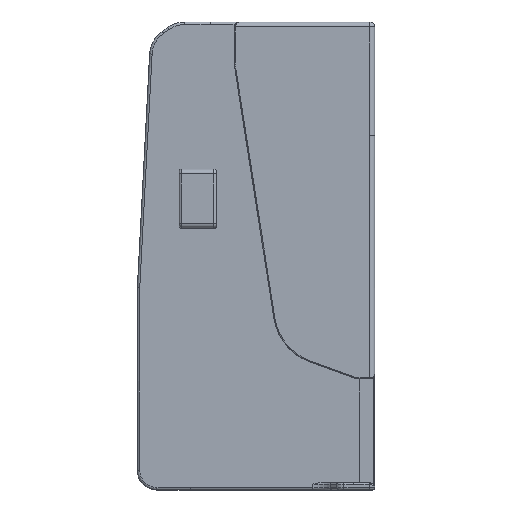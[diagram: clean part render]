
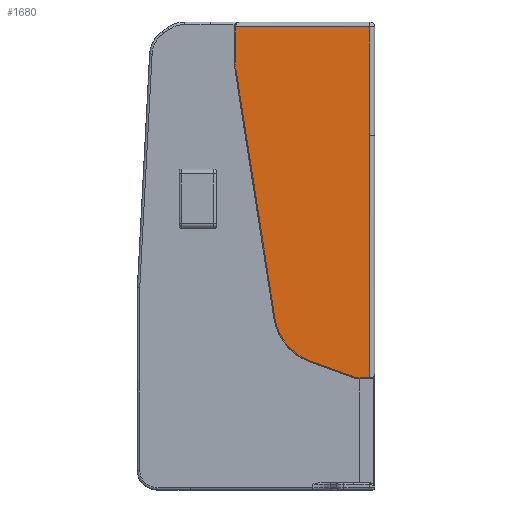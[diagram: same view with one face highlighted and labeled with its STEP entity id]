
A CAD part, top view. The second image highlights one B-rep face of the part: STEP entity #1680.
In plain terms, the highlighted planar face has unit normal (0, 0, 1).
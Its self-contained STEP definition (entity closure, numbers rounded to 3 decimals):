
#30 = EDGE_CURVE ( 'NONE', #1116, #677, #3347, .T. ) ;
#35 = DIRECTION ( 'NONE',  ( -0.94, 0.342, 0. ) ) ;
#47 = CARTESIAN_POINT ( 'NONE',  ( 36., -36.4, 16. ) ) ;
#58 = PLANE ( 'NONE',  #2719 ) ;
#64 = EDGE_CURVE ( 'NONE', #3213, #1588, #3166, .T. ) ;
#81 = CARTESIAN_POINT ( 'NONE',  ( 10.332, 9.98, 16. ) ) ;
#131 = CIRCLE ( 'NONE', #1532, 7.8 ) ;
#152 = CARTESIAN_POINT ( 'NONE',  ( 7.65, 35., 16. ) ) ;
#164 = ORIENTED_EDGE ( 'NONE', *, *, #311, .T. ) ;
#279 = ORIENTED_EDGE ( 'NONE', *, *, #973, .F. ) ;
#285 = DIRECTION ( 'NONE',  ( 0., -1., 0. ) ) ;
#311 = EDGE_CURVE ( 'NONE', #2451, #1371, #3212, .T. ) ;
#324 = DIRECTION ( 'NONE',  ( 0., 1., 0. ) ) ;
#402 = ORIENTED_EDGE ( 'NONE', *, *, #1392, .F. ) ;
#412 = CARTESIAN_POINT ( 'NONE',  ( 35., 14., 16. ) ) ;
#423 = VECTOR ( 'NONE', #1106, 1000. ) ;
#440 = CARTESIAN_POINT ( 'NONE',  ( 7.65, 27.714, 16. ) ) ;
#503 = CARTESIAN_POINT ( 'NONE',  ( 32.367, -36.4, 16. ) ) ;
#617 = ORIENTED_EDGE ( 'NONE', *, *, #30, .F. ) ;
#677 = VERTEX_POINT ( 'NONE', #3092 ) ;
#766 = VERTEX_POINT ( 'NONE', #3114 ) ;
#809 = ORIENTED_EDGE ( 'NONE', *, *, #1169, .F. ) ;
#819 = VECTOR ( 'NONE', #2671, 1000. ) ;
#828 = DIRECTION ( 'NONE',  ( 0., 0., -1. ) ) ;
#876 = LINE ( 'NONE', #412, #2862 ) ;
#973 = EDGE_CURVE ( 'NONE', #677, #3107, #1227, .T. ) ;
#984 = CARTESIAN_POINT ( 'NONE',  ( 10.332, 9.98, 16. ) ) ;
#1017 = ORIENTED_EDGE ( 'NONE', *, *, #3275, .T. ) ;
#1090 = DIRECTION ( 'NONE',  ( 0., 0., -1. ) ) ;
#1106 = DIRECTION ( 'NONE',  ( 0., -1., 0. ) ) ;
#1116 = VERTEX_POINT ( 'NONE', #503 ) ;
#1160 = CARTESIAN_POINT ( 'NONE',  ( 15.45, 27.714, 16. ) ) ;
#1169 = EDGE_CURVE ( 'NONE', #1588, #1116, #2478, .T. ) ;
#1215 = ORIENTED_EDGE ( 'NONE', *, *, #1229, .T. ) ;
#1227 = CIRCLE ( 'NONE', #3082, 11. ) ;
#1229 = EDGE_CURVE ( 'NONE', #766, #2451, #1721, .T. ) ;
#1257 = VECTOR ( 'NONE', #35, 1000. ) ;
#1327 = EDGE_CURVE ( 'NONE', #3213, #766, #876, .T. ) ;
#1365 = CARTESIAN_POINT ( 'NONE',  ( 15.698, -24.284, 16. ) ) ;
#1371 = VERTEX_POINT ( 'NONE', #440 ) ;
#1392 = EDGE_CURVE ( 'NONE', #3107, #1957, #2695, .T. ) ;
#1424 = DIRECTION ( 'NONE',  ( -1., 0., 0. ) ) ;
#1428 = DIRECTION ( 'NONE',  ( 0., 1., 0. ) ) ;
#1478 = EDGE_LOOP ( 'NONE', ( #1215, #164, #1017, #2893, #402, #279, #617, #809, #2766, #1866 ) ) ;
#1532 = AXIS2_PLACEMENT_3D ( 'NONE', #1160, #2985, #1428 ) ;
#1576 = CARTESIAN_POINT ( 'NONE',  ( 9.877, 12.887, 16. ) ) ;
#1588 = VERTEX_POINT ( 'NONE', #3367 ) ;
#1590 = LINE ( 'NONE', #81, #819 ) ;
#1680 = ADVANCED_FACE ( 'NONE', ( #2821 ), #58, .F. ) ;
#1721 = LINE ( 'NONE', #2977, #3027 ) ;
#1787 = VECTOR ( 'NONE', #1837, 1000. ) ;
#1837 = DIRECTION ( 'NONE',  ( -1., 0., 0. ) ) ;
#1866 = ORIENTED_EDGE ( 'NONE', *, *, #1327, .T. ) ;
#1957 = VERTEX_POINT ( 'NONE', #1576 ) ;
#1984 = VECTOR ( 'NONE', #2799, 1000. ) ;
#2071 = CARTESIAN_POINT ( 'NONE',  ( 7.65, 27.714, 16. ) ) ;
#2133 = CARTESIAN_POINT ( 'NONE',  ( 7.744, 26.507, 16. ) ) ;
#2139 = EDGE_CURVE ( 'NONE', #3203, #1957, #1590, .T. ) ;
#2432 = VECTOR ( 'NONE', #285, 1000. ) ;
#2451 = VERTEX_POINT ( 'NONE', #152 ) ;
#2478 = LINE ( 'NONE', #47, #1787 ) ;
#2482 = DIRECTION ( 'NONE',  ( 0., 1., 0. ) ) ;
#2635 = CARTESIAN_POINT ( 'NONE',  ( 26.565, -22.582, 16. ) ) ;
#2671 = DIRECTION ( 'NONE',  ( 0.155, -0.988, 0. ) ) ;
#2695 = LINE ( 'NONE', #984, #1984 ) ;
#2719 = AXIS2_PLACEMENT_3D ( 'NONE', #3154, #828, #324 ) ;
#2728 = CARTESIAN_POINT ( 'NONE',  ( 35., 12.887, 16. ) ) ;
#2766 = ORIENTED_EDGE ( 'NONE', *, *, #64, .F. ) ;
#2799 = DIRECTION ( 'NONE',  ( -0.155, 0.988, 0. ) ) ;
#2821 = FACE_OUTER_BOUND ( 'NONE', #1478, .T. ) ;
#2859 = CARTESIAN_POINT ( 'NONE',  ( 35., 14., 16. ) ) ;
#2862 = VECTOR ( 'NONE', #2482, 1000. ) ;
#2886 = CARTESIAN_POINT ( 'NONE',  ( 19.377, -31.672, 16. ) ) ;
#2893 = ORIENTED_EDGE ( 'NONE', *, *, #2139, .T. ) ;
#2909 = DIRECTION ( 'NONE',  ( 0., 1., 0. ) ) ;
#2977 = CARTESIAN_POINT ( 'NONE',  ( 7.45, 35., 16. ) ) ;
#2985 = DIRECTION ( 'NONE',  ( 0., 0., 1. ) ) ;
#3027 = VECTOR ( 'NONE', #1424, 1000. ) ;
#3082 = AXIS2_PLACEMENT_3D ( 'NONE', #2635, #1090, #2909 ) ;
#3092 = CARTESIAN_POINT ( 'NONE',  ( 22.803, -32.919, 16. ) ) ;
#3107 = VERTEX_POINT ( 'NONE', #1365 ) ;
#3114 = CARTESIAN_POINT ( 'NONE',  ( 35., 35., 16. ) ) ;
#3154 = CARTESIAN_POINT ( 'NONE',  ( 36., 14., 16. ) ) ;
#3166 = LINE ( 'NONE', #2859, #423 ) ;
#3203 = VERTEX_POINT ( 'NONE', #2133 ) ;
#3212 = LINE ( 'NONE', #2071, #2432 ) ;
#3213 = VERTEX_POINT ( 'NONE', #2728 ) ;
#3275 = EDGE_CURVE ( 'NONE', #1371, #3203, #131, .T. ) ;
#3347 = LINE ( 'NONE', #2886, #1257 ) ;
#3367 = CARTESIAN_POINT ( 'NONE',  ( 35., -36.4, 16. ) ) ;
